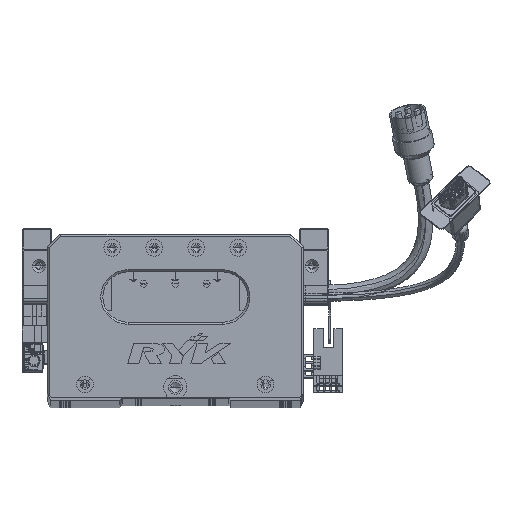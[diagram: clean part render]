
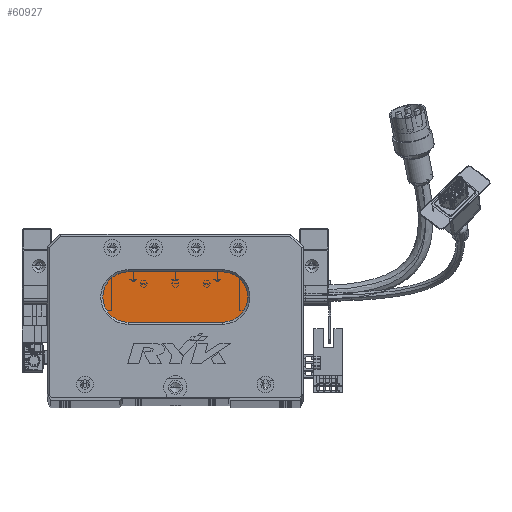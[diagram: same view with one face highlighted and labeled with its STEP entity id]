
A CAD part, top view. The second image highlights one B-rep face of the part: STEP entity #60927.
In plain terms, the highlighted planar face has unit normal (0, 0, 1) as drawn and (0, 0, -1) by its records, which use the part's own axes.
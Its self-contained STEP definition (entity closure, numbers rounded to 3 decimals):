
#1038 = DIRECTION ( 'NONE',  ( -1., 0., 0. ) ) ;
#5763 = DIRECTION ( 'NONE',  ( 0., 0., -1. ) ) ;
#9050 = CIRCLE ( 'NONE', #98850, 12. ) ;
#9107 = AXIS2_PLACEMENT_3D ( 'NONE', #106515, #5763, #98063 ) ;
#9967 = CARTESIAN_POINT ( 'NONE',  ( 83.5, 36., 13. ) ) ;
#11037 = EDGE_CURVE ( 'NONE', #22752, #104734, #64641, .T. ) ;
#13704 = ORIENTED_EDGE ( 'NONE', *, *, #11037, .T. ) ;
#15034 = CARTESIAN_POINT ( 'NONE',  ( 38.5, 60., 13. ) ) ;
#20924 = AXIS2_PLACEMENT_3D ( 'NONE', #41890, #100736, #1038 ) ;
#21950 = CARTESIAN_POINT ( 'NONE',  ( 38.5, 36., 13. ) ) ;
#22425 = CIRCLE ( 'NONE', #9107, 12. ) ;
#22752 = VERTEX_POINT ( 'NONE', #68814 ) ;
#27026 = EDGE_CURVE ( 'NONE', #58681, #36400, #9050, .T. ) ;
#32993 = CARTESIAN_POINT ( 'NONE',  ( 83.5, 60., 13. ) ) ;
#33738 = CARTESIAN_POINT ( 'NONE',  ( 26.5, 48., 13. ) ) ;
#34440 = CARTESIAN_POINT ( 'NONE',  ( 83.5, 48., 13. ) ) ;
#35594 = DIRECTION ( 'NONE',  ( -1., 0., 0. ) ) ;
#36400 = VERTEX_POINT ( 'NONE', #33738 ) ;
#40471 = FACE_OUTER_BOUND ( 'NONE', #58224, .T. ) ;
#41890 = CARTESIAN_POINT ( 'NONE',  ( 83.5, 48., 13. ) ) ;
#45233 = ORIENTED_EDGE ( 'NONE', *, *, #74983, .T. ) ;
#51684 = DIRECTION ( 'NONE',  ( -1., 0., 0. ) ) ;
#54470 = VECTOR ( 'NONE', #75642, 1000. ) ;
#58224 = EDGE_LOOP ( 'NONE', ( #13704, #82893, #96438, #106822, #45233 ) ) ;
#58621 = EDGE_CURVE ( 'NONE', #36400, #98133, #22425, .T. ) ;
#58681 = VERTEX_POINT ( 'NONE', #21950 ) ;
#60227 = DIRECTION ( 'NONE',  ( 0., 0., -1. ) ) ;
#60927 = ADVANCED_FACE ( 'NONE', ( #40471 ), #75626, .T. ) ;
#64641 = CIRCLE ( 'NONE', #20924, 12. ) ;
#65012 = VECTOR ( 'NONE', #94000, 1000. ) ;
#68717 = CARTESIAN_POINT ( 'NONE',  ( 38.5, 48., 13. ) ) ;
#68814 = CARTESIAN_POINT ( 'NONE',  ( 83.5, 60., 13. ) ) ;
#72942 = LINE ( 'NONE', #77094, #65012 ) ;
#74983 = EDGE_CURVE ( 'NONE', #98133, #22752, #89994, .T. ) ;
#75168 = EDGE_CURVE ( 'NONE', #104734, #58681, #72942, .T. ) ;
#75626 = PLANE ( 'NONE',  #92382 ) ;
#75642 = DIRECTION ( 'NONE',  ( 1., 0., 0. ) ) ;
#77094 = CARTESIAN_POINT ( 'NONE',  ( 83.5, 36., 13. ) ) ;
#82893 = ORIENTED_EDGE ( 'NONE', *, *, #75168, .T. ) ;
#89994 = LINE ( 'NONE', #32993, #54470 ) ;
#92382 = AXIS2_PLACEMENT_3D ( 'NONE', #34440, #92514, #51684 ) ;
#92514 = DIRECTION ( 'NONE',  ( 0., 0., -1. ) ) ;
#94000 = DIRECTION ( 'NONE',  ( -1., 0., 0. ) ) ;
#96438 = ORIENTED_EDGE ( 'NONE', *, *, #27026, .T. ) ;
#98063 = DIRECTION ( 'NONE',  ( -1., 0., 0. ) ) ;
#98133 = VERTEX_POINT ( 'NONE', #15034 ) ;
#98850 = AXIS2_PLACEMENT_3D ( 'NONE', #68717, #60227, #35594 ) ;
#100736 = DIRECTION ( 'NONE',  ( 0., 0., -1. ) ) ;
#104734 = VERTEX_POINT ( 'NONE', #9967 ) ;
#106515 = CARTESIAN_POINT ( 'NONE',  ( 38.5, 48., 13. ) ) ;
#106822 = ORIENTED_EDGE ( 'NONE', *, *, #58621, .T. ) ;
